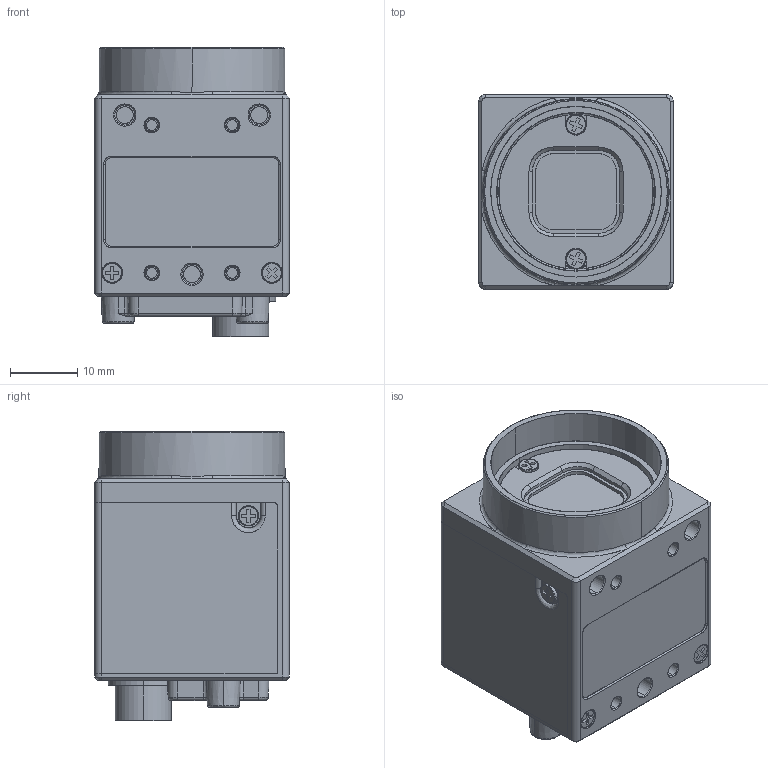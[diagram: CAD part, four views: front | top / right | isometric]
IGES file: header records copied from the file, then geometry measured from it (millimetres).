
Start section: SolidWorks IGES file using analytic representation for surfaces
Global section: file name: C:\Users\chrisp\Desktop\FL2-016-R0.IGS; native system: SolidWorks 2015; preprocessor: SolidWorks 2015; author: chrisp; date: 160107.085306; units: millimetre
Bounding box: 29 x 29 x 43.08 mm (x, y, z)
Surface area: 7552 mm2 (no closed solid volume)
Topology: 0 solids, 0 shells, 525 faces, 5486 edges, 5476 vertices
Faces by surface type: bspline 319, revolution 206
